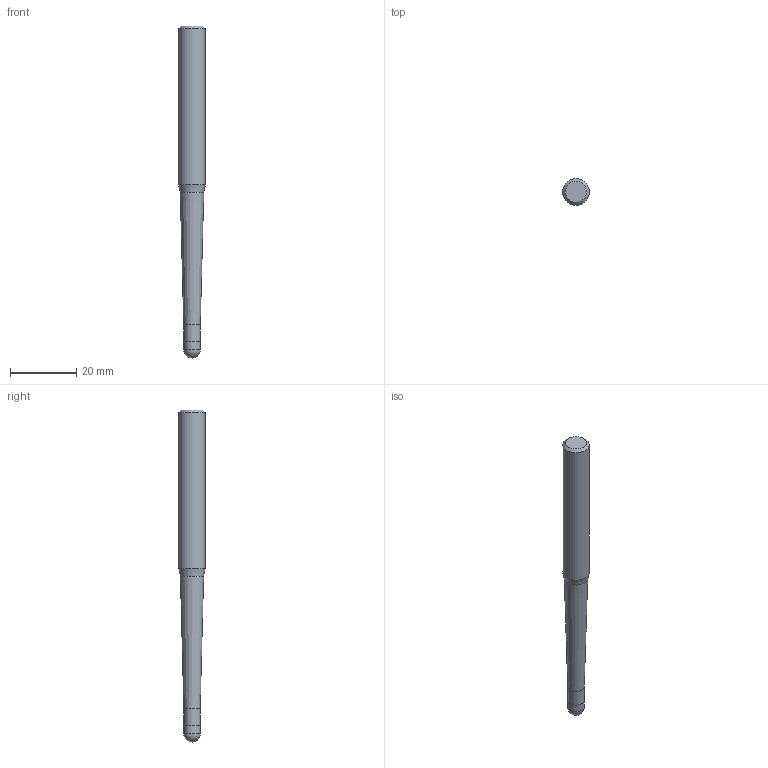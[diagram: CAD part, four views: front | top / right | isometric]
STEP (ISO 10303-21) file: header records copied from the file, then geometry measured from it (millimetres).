
FILE_DESCRIPTION((''),'2;1');
FILE_NAME('C:\Users\nsx150\AppData\Local\Temp\Mastercam 2021\SNAKH10GOD\TEMP.step','2021-10-21T13:33:50',(''),(''),'STEP Write','Mastercam 2021 ... CNC Software, Inc.','');
FILE_SCHEMA(('AUTOMOTIVE_DESIGN'));
Length unit declared in the file: millimetre
Products named in the file (1): None
Bounding box: 8 x 8 x 100 mm (x, y, z)
Volume: 3829.1 mm3; surface area: 2246.9 mm2
Topology: 2 solids, 2 shells, 10 faces, 16 edges, 9 vertices
Faces by surface type: plane 3, cylinder 3, cone 3, sphere 1
Full cylindrical faces by diameter (mm): 4.98 x1, 5 x1, 8 x1
Entity records: 232 total; most frequent: DIRECTION 40, CARTESIAN_POINT 28, AXIS2_PLACEMENT_3D 20, ORIENTED_EDGE 16, EDGE_LOOP 16, STYLED_ITEM 13, ADVANCED_FACE 10, FACE_BOUND 9
